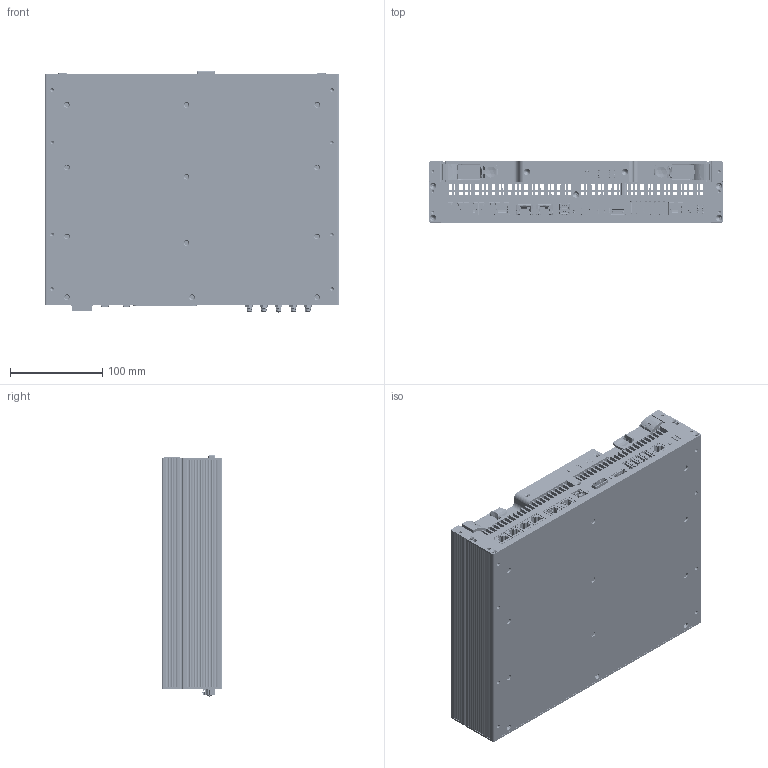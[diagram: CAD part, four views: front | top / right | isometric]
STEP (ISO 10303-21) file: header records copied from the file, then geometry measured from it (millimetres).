
FILE_DESCRIPTION(/* description */ (''),/* implementation_level */ '2;1');
FILE_NAME(/* name */ 'D:\Programm_Data\Autodesk\components\VP7440 vereinfacht\VP7440.stp',/* time_stamp */ '2024-04-09T08:40:14+02:00',/* author */ ('viskhp'),/* organization */ (''),/* preprocessor_version */ 'ST-DEVELOPER v18.1',/* originating_system */ 'Autodesk Inventor 2022',/* authorisation */ '');
FILE_SCHEMA (('AUTOMOTIVE_DESIGN { 1 0 10303 214 3 1 1 }'));
Products named in the file (1): VP7440
Bounding box: 320 x 66 x 262.16 mm (x, y, z)
Volume: 1712459.7 mm3; surface area: 1186671.3 mm2
Topology: 2 solids, 39 shells, 20610 faces, 56896 edges, 36715 vertices
Faces by surface type: plane 13157, cylinder 5604, bspline 1047, cone 440, torus 214, sphere 148
Full cylindrical faces by diameter (mm): 0.457 x60, 0.711 x30, 0.9 x8, 0.92 x5, 1 x8, 1.118 x30, 1.2 x2, 1.27 x15, 1.3 x5, 1.4 x8, 1.524 x4, 1.95 x24, 2 x12, 2.05 x4, 2.2 x12, 2.3 x10, 2.32 x4, 2.5 x93, 2.9 x4, 3 x4, 3.2 x6, 3.3 x26, 3.4 x27, 3.6 x4, 3.72 x2, 4 x12, 4.1 x9, 4.2 x2, 4.3 x6, 4.5 x14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
Entity records: 748638 total; most frequent: CARTESIAN_POINT 199450, ORIENTED_EDGE 113180, DIRECTION 105288, EDGE_CURVE 56698, LINE 41510, VECTOR 41510, VERTEX_POINT 36715, AXIS2_PLACEMENT_3D 31889
